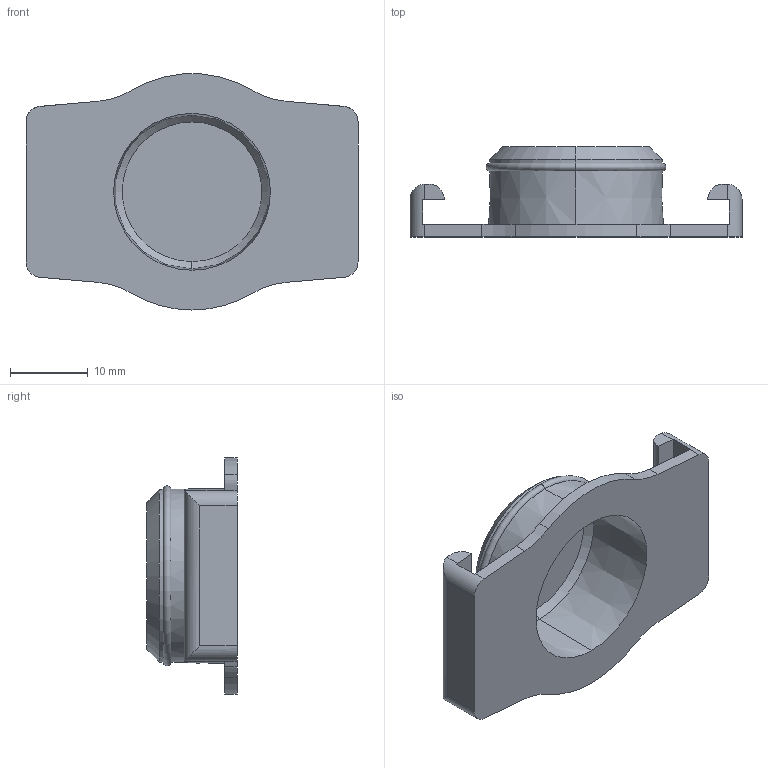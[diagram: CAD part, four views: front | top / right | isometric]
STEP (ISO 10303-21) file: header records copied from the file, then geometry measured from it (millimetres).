
FILE_DESCRIPTION (( 'STEP AP214' ), '1' );
FILE_NAME ('8001037_CUS.STEP', '2022-07-05T13:35:50', ( '' ), ( '' ), 'SwSTEP 2.0', 'SolidWorks 2020', '' );
FILE_SCHEMA (( 'AUTOMOTIVE_DESIGN' ));
Length unit declared in the file: millimetre
Products named in the file (1): 8001037_CUS
Bounding box: 42.7 x 11.6 x 30.35 mm (x, y, z)
Volume: 2868.6 mm3; surface area: 4282.4 mm2
Topology: 1 solids, 1 shells, 47 faces, 121 edges, 78 vertices
Faces by surface type: plane 20, cylinder 15, cone 10, torus 2
Entity records: 1469 total; most frequent: CARTESIAN_POINT 283, DIRECTION 249, ORIENTED_EDGE 242, EDGE_CURVE 121, AXIS2_PLACEMENT_3D 92, VERTEX_POINT 78, VECTOR 65, LINE 65
